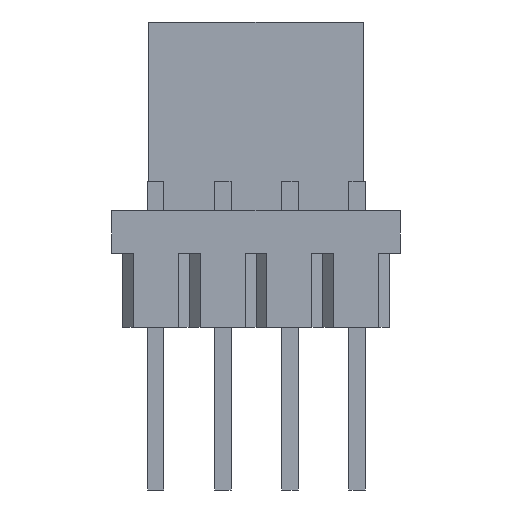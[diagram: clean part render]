
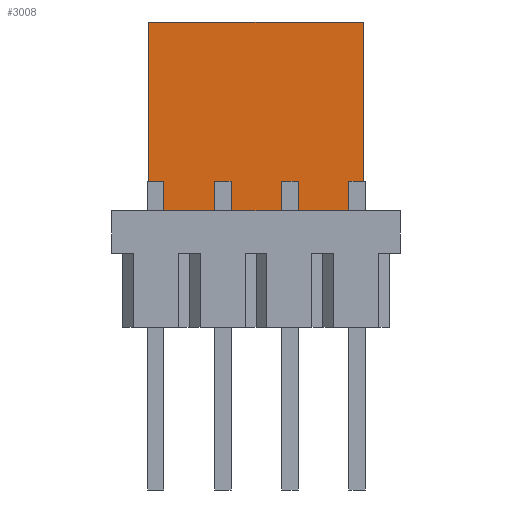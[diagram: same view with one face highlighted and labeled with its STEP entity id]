
A CAD part, front view. The second image highlights one B-rep face of the part: STEP entity #3008.
In plain terms, the highlighted planar face has unit normal (0, -1, 0).
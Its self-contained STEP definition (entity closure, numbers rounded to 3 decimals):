
#166 = PLANE ( 'NONE',  #4122 ) ;
#175 = VECTOR ( 'NONE', #1440, 1000. ) ;
#313 = DIRECTION ( 'NONE',  ( 1., 0., 0. ) ) ;
#463 = CARTESIAN_POINT ( 'NONE',  ( 0., -11., 6.92 ) ) ;
#480 = DIRECTION ( 'NONE',  ( 0., 0., -1. ) ) ;
#520 = DIRECTION ( 'NONE',  ( 0., 0., 1. ) ) ;
#670 = CARTESIAN_POINT ( 'NONE',  ( 3.935, -11., 0. ) ) ;
#840 = EDGE_CURVE ( 'NONE', #2299, #3408, #3018, .T. ) ;
#859 = CARTESIAN_POINT ( 'NONE',  ( 3.935, -11., 6.92 ) ) ;
#878 = CARTESIAN_POINT ( 'NONE',  ( 0., -11., 6.92 ) ) ;
#949 = VECTOR ( 'NONE', #3105, 1000. ) ;
#967 = CARTESIAN_POINT ( 'NONE',  ( 3.935, -11., 6.92 ) ) ;
#1183 = VERTEX_POINT ( 'NONE', #4184 ) ;
#1287 = CARTESIAN_POINT ( 'NONE',  ( -3.935, -11., 6.92 ) ) ;
#1366 = FACE_OUTER_BOUND ( 'NONE', #2385, .T. ) ;
#1397 = CARTESIAN_POINT ( 'NONE',  ( 0., -11., 0. ) ) ;
#1434 = ORIENTED_EDGE ( 'NONE', *, *, #2666, .F. ) ;
#1440 = DIRECTION ( 'NONE',  ( 1., 0., 0. ) ) ;
#1609 = LINE ( 'NONE', #463, #175 ) ;
#1631 = EDGE_CURVE ( 'NONE', #1183, #3408, #2726, .T. ) ;
#1875 = VERTEX_POINT ( 'NONE', #1287 ) ;
#1916 = VECTOR ( 'NONE', #480, 1000. ) ;
#2156 = DIRECTION ( 'NONE',  ( 0., 1., 0. ) ) ;
#2299 = VERTEX_POINT ( 'NONE', #967 ) ;
#2345 = ORIENTED_EDGE ( 'NONE', *, *, #840, .F. ) ;
#2385 = EDGE_LOOP ( 'NONE', ( #2650, #2345, #1434, #2655 ) ) ;
#2631 = VECTOR ( 'NONE', #313, 1000. ) ;
#2650 = ORIENTED_EDGE ( 'NONE', *, *, #1631, .T. ) ;
#2655 = ORIENTED_EDGE ( 'NONE', *, *, #3427, .T. ) ;
#2666 = EDGE_CURVE ( 'NONE', #1875, #2299, #1609, .T. ) ;
#2726 = LINE ( 'NONE', #1397, #2631 ) ;
#2780 = LINE ( 'NONE', #4001, #1916 ) ;
#3008 = ADVANCED_FACE ( 'NONE', ( #1366 ), #166, .F. ) ;
#3018 = LINE ( 'NONE', #859, #949 ) ;
#3105 = DIRECTION ( 'NONE',  ( 0., 0., -1. ) ) ;
#3408 = VERTEX_POINT ( 'NONE', #670 ) ;
#3427 = EDGE_CURVE ( 'NONE', #1875, #1183, #2780, .T. ) ;
#4001 = CARTESIAN_POINT ( 'NONE',  ( -3.935, -11., 6.92 ) ) ;
#4122 = AXIS2_PLACEMENT_3D ( 'NONE', #878, #2156, #520 ) ;
#4184 = CARTESIAN_POINT ( 'NONE',  ( -3.935, -11., 0. ) ) ;
